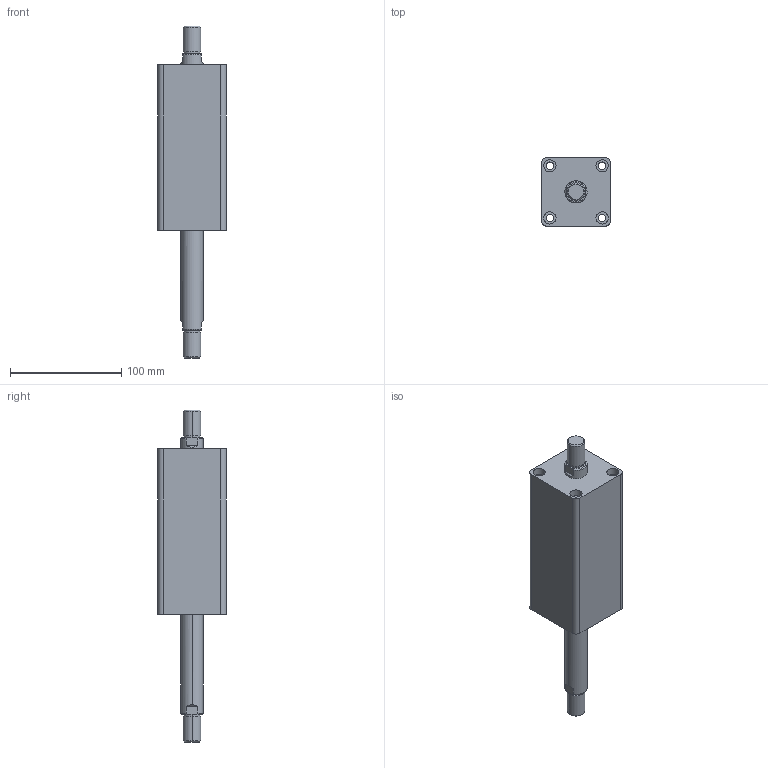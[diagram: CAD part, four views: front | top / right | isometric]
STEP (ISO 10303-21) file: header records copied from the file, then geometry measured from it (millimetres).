
FILE_DESCRIPTION (( 'STEP AP203' ), '1' );
FILE_NAME ('HTB-SW32-80W.STEP', '2019-10-07T08:59:02', ( '微软用户' ), ( '微软中国' ), 'SwSTEP 2.0', 'SolidWorks 2012', '' );
FILE_SCHEMA (( 'CONFIG_CONTROL_DESIGN' ));
Length unit declared in the file: millimetre
Products named in the file (3): HTB-SW32-80W; HTB-SW32-80W活塞杆; HTB-SW32-80掛极
Assembly tree (2 placements, depth 2):
  HTB-SW32-80W
    HTB-SW32-80掛极
    HTB-SW32-80W活塞杆
Bounding box: 62 x 62 x 299 mm (x, y, z)
Volume: 544341.4 mm3; surface area: 90969.4 mm2
Topology: 2 solids, 2 shells, 108 faces, 240 edges, 156 vertices
Faces by surface type: cylinder 52, plane 36, torus 12, cone 8
Entity records: 3449 total; most frequent: CARTESIAN_POINT 629, DIRECTION 586, ORIENTED_EDGE 480, AXIS2_PLACEMENT_3D 249, EDGE_CURVE 240, VERTEX_POINT 156, EDGE_LOOP 138, CIRCLE 136
